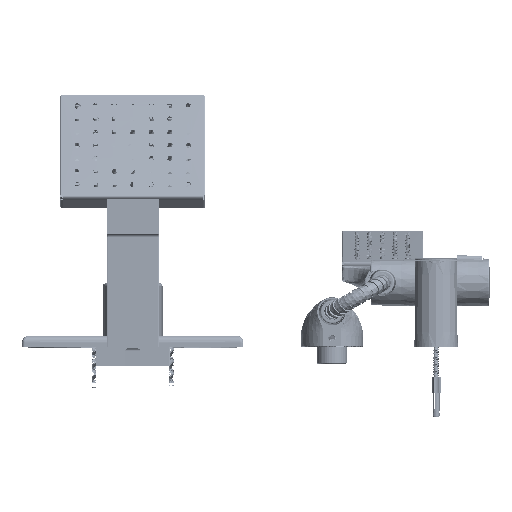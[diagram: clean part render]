
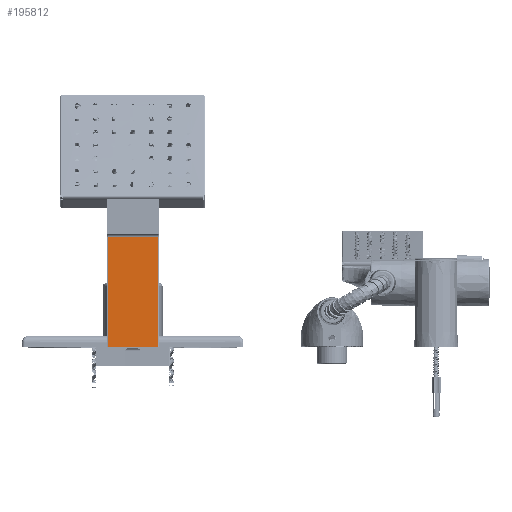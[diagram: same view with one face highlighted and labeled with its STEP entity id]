
A CAD part, front view. The second image highlights one B-rep face of the part: STEP entity #195812.
In plain terms, the highlighted planar face has unit normal (0, -1, 0).
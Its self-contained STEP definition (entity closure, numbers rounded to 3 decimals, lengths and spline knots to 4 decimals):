
#13487 = CARTESIAN_POINT ( 'NONE',  ( 0.8465, -9.7727, 0. ) ) ;
#19923 = CARTESIAN_POINT ( 'NONE',  ( -0.8465, -9.7727, 3.7008 ) ) ;
#21545 = LINE ( 'NONE', #390825, #344473 ) ;
#35926 = DIRECTION ( 'NONE',  ( -1., 0., 0. ) ) ;
#54952 = EDGE_CURVE ( 'NONE', #404255, #431014, #353455, .T. ) ;
#97722 = DIRECTION ( 'NONE',  ( 0., 0., -1. ) ) ;
#102723 = CARTESIAN_POINT ( 'NONE',  ( -0.8858, -9.7727, 0. ) ) ;
#122559 = EDGE_CURVE ( 'NONE', #431014, #462896, #21545, .T. ) ;
#127290 = CARTESIAN_POINT ( 'NONE',  ( -0.8465, -9.7727, 0. ) ) ;
#140853 = LINE ( 'NONE', #102723, #320592 ) ;
#147876 = ORIENTED_EDGE ( 'NONE', *, *, #373757, .F. ) ;
#159426 = LINE ( 'NONE', #338259, #221505 ) ;
#174836 = EDGE_CURVE ( 'NONE', #435693, #404255, #159426, .T. ) ;
#180408 = DIRECTION ( 'NONE',  ( 0., 0., -1. ) ) ;
#195812 = ADVANCED_FACE ( 'NONE', ( #209105 ), #249577, .T. ) ;
#209105 = FACE_OUTER_BOUND ( 'NONE', #440609, .T. ) ;
#221505 = VECTOR ( 'NONE', #440834, 39.3701 ) ;
#249577 = PLANE ( 'NONE',  #260600 ) ;
#260600 = AXIS2_PLACEMENT_3D ( 'NONE', #282986, #285348, #180408 ) ;
#266780 = ORIENTED_EDGE ( 'NONE', *, *, #174836, .T. ) ;
#277231 = DIRECTION ( 'NONE',  ( -1., 0., 0. ) ) ;
#282986 = CARTESIAN_POINT ( 'NONE',  ( -0.8858, -9.7727, 3.8189 ) ) ;
#284573 = VECTOR ( 'NONE', #277231, 39.3701 ) ;
#285348 = DIRECTION ( 'NONE',  ( 0., -1., 0. ) ) ;
#320028 = CARTESIAN_POINT ( 'NONE',  ( -0.8858, -9.7727, 3.7008 ) ) ;
#320592 = VECTOR ( 'NONE', #35926, 39.3701 ) ;
#338259 = CARTESIAN_POINT ( 'NONE',  ( 0.8465, -9.7727, 3.8189 ) ) ;
#339363 = ORIENTED_EDGE ( 'NONE', *, *, #122559, .T. ) ;
#344473 = VECTOR ( 'NONE', #97722, 39.3701 ) ;
#353455 = LINE ( 'NONE', #320028, #284573 ) ;
#373757 = EDGE_CURVE ( 'NONE', #435693, #462896, #140853, .T. ) ;
#390825 = CARTESIAN_POINT ( 'NONE',  ( -0.8465, -9.7727, 3.8189 ) ) ;
#392913 = ORIENTED_EDGE ( 'NONE', *, *, #54952, .T. ) ;
#399356 = CARTESIAN_POINT ( 'NONE',  ( 0.8465, -9.7727, 3.7008 ) ) ;
#404255 = VERTEX_POINT ( 'NONE', #399356 ) ;
#431014 = VERTEX_POINT ( 'NONE', #19923 ) ;
#435693 = VERTEX_POINT ( 'NONE', #13487 ) ;
#440609 = EDGE_LOOP ( 'NONE', ( #392913, #339363, #147876, #266780 ) ) ;
#440834 = DIRECTION ( 'NONE',  ( 0., 0., 1. ) ) ;
#462896 = VERTEX_POINT ( 'NONE', #127290 ) ;
